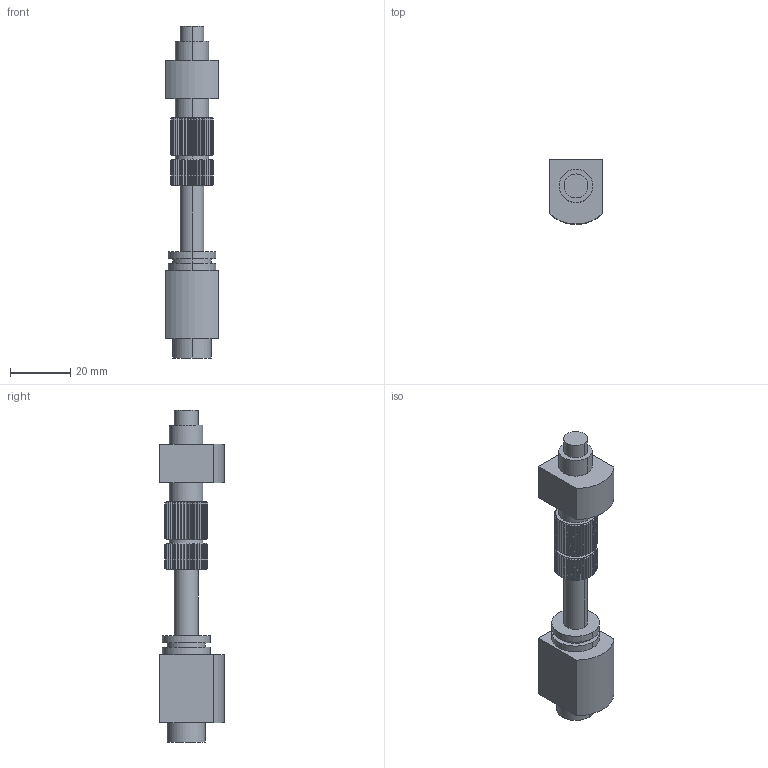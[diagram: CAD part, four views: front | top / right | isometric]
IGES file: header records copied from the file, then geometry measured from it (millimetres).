
Start section: 3D InterOp IGES (Version 21 0 3), Spatial Corp. Copyright (c) 1999-2007.
Global section: file name: CSR Shoulder Hydraulics - 20140531.igs; native system: Spatial Corp.; preprocessor: 3D InterOp GENERIC/IGES 3.0; author: Noname; organization: Noname; date: 20140601.233325; units: inch
Bounding box: 17.6 x 21.44 x 110.41 mm (x, y, z)
Surface area: 7543.7 mm2 (no closed solid volume)
Topology: 0 solids, 0 shells, 472 faces, 2700 edges, 2700 vertices
Faces by surface type: revolution 282, extrusion 190
